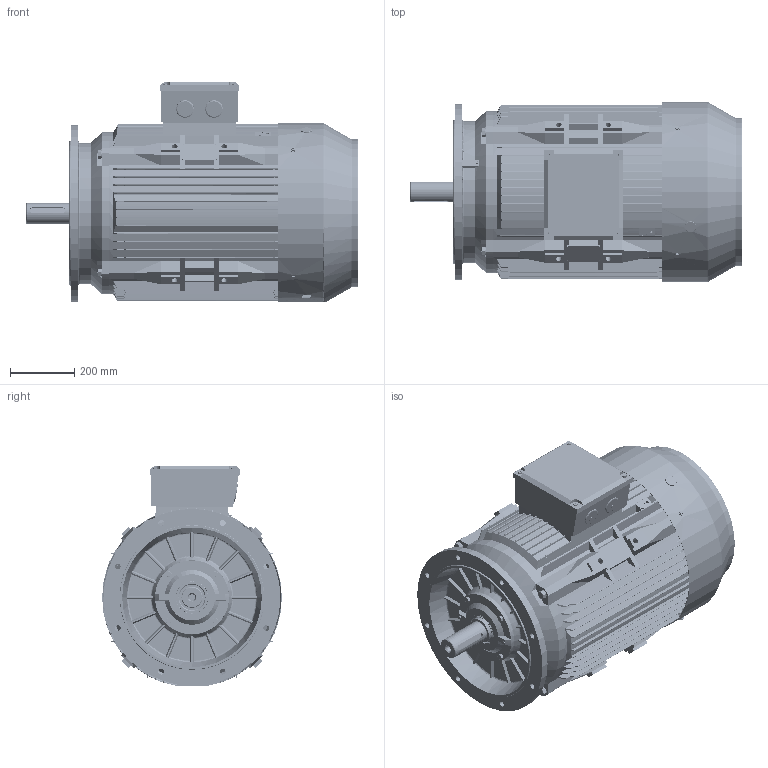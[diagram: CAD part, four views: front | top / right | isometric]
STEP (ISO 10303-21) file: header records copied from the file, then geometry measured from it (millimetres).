
FILE_DESCRIPTION (( 'STEP AP203' ), '1' );
FILE_NAME ('TC 280M-2 B5 外形图.STEP', '2013-06-27T06:17:16', ( '微软用户' ), ( '微软中国' ), 'SwSTEP 2.0', 'SolidWorks 2008', '' );
FILE_SCHEMA (( 'CONFIG_CONTROL_DESIGN' ));
Products named in the file (22): TC 280 轴承外盖NDE_默认; TC 280M-2 B5 俋倛芞; TC 280M-2 转子_默认; TC 280M-2 转轴_默认; TC 280 风罩_默认; M16-50_默认; M10-80_默认; 螺塞M50_默认; 扣塞_默认; TC 280M B5机座_默认; TC280 B3后端盖(170)_默认; TC 280 轴承外盖DE_默认; 6316_默认; 油封80-100-10_默认; TC 280M接线盒座_默认; TC 280M接线盒盖_默认; 10_默认; 16_默认; M8-12_默认; M8-20_默认; 铜油嘴_默认; TC 280 B5法兰_默认
Assembly tree (41 placements, depth 3):
  TC 280M-2 B5 俋倛芞
    M16-50_默认  x4
    10_默认  x4
    M8-12_默认  x4
    螺塞M50_默认  x2
    M8-20_默认  x4
    铜油嘴_默认
    16_默认  x4
    扣塞_默认
    TC 280 轴承外盖DE_默认
    TC 280M-2 转子_默认
      6316_默认  x2
      TC 280M-2 转轴_默认
    TC 280 风罩_默认
    M10-80_默认  x4
    TC 280 B5法兰_默认
    TC 280M B5机座_默认
    TC 280 轴承外盖NDE_默认
    TC 280M接线盒盖_默认
    TC280 B3后端盖(170)_默认
    油封80-100-10_默认
    TC 280M接线盒座_默认
Bounding box: 1032.2 x 559 x 683.18 mm (x, y, z)
Volume: 37763410.2 mm3; surface area: 7058412.3 mm2
Topology: 41 solids, 42 shells, 9819 faces, 28817 edges, 19076 vertices
Faces by surface type: plane 4886, cylinder 4227, cone 298, torus 231, bspline 115, sphere 62
Entity records: 330834 total; most frequent: CARTESIAN_POINT 73014, ORIENTED_EDGE 54318, DIRECTION 52685, EDGE_CURVE 27159, VERTEX_POINT 18019, AXIS2_PLACEMENT_3D 17954, VECTOR 16777, LINE 16777
